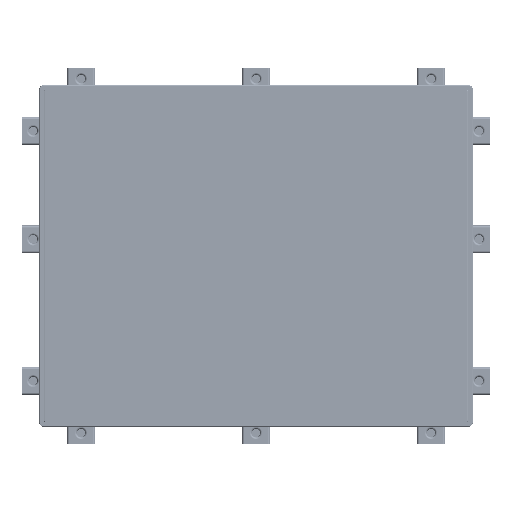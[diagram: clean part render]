
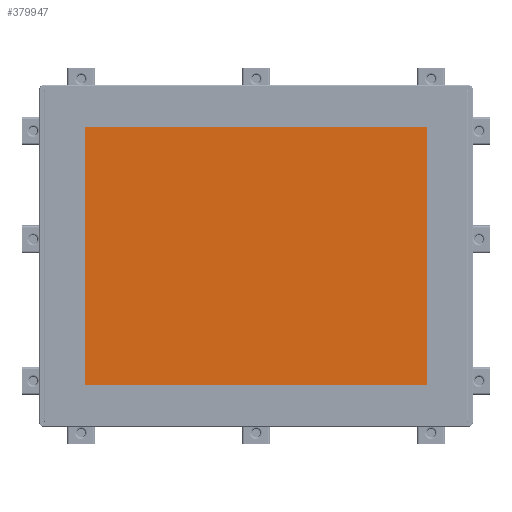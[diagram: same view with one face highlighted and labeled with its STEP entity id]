
A CAD part, top view. The second image highlights one B-rep face of the part: STEP entity #379947.
In plain terms, the highlighted planar face has unit normal (0, 0, 1).
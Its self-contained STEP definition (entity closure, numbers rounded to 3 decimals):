
#13794=DIRECTION('',(0.,-1.,0.));
#13795=VECTOR('',#13794,185.3);
#13796=CARTESIAN_POINT('',(-123.25,92.65,3.21));
#13797=LINE('',#13796,#13795);
#13798=DIRECTION('',(1.,0.,0.));
#13799=VECTOR('',#13798,246.5);
#13800=CARTESIAN_POINT('',(-123.25,92.65,3.21));
#13801=LINE('',#13800,#13799);
#13810=DIRECTION('',(0.,-1.,0.));
#13811=VECTOR('',#13810,185.3);
#13812=CARTESIAN_POINT('',(123.25,92.65,3.21));
#13813=LINE('',#13812,#13811);
#13822=DIRECTION('',(-1.,0.,0.));
#13823=VECTOR('',#13822,246.5);
#13824=CARTESIAN_POINT('',(123.25,-92.65,3.21));
#13825=LINE('',#13824,#13823);
#277768=CARTESIAN_POINT('',(-123.25,-92.65,3.21));
#277769=VERTEX_POINT('',#277768);
#277770=CARTESIAN_POINT('',(-123.25,92.65,3.21));
#277771=VERTEX_POINT('',#277770);
#277772=CARTESIAN_POINT('',(123.25,92.65,3.21));
#277773=VERTEX_POINT('',#277772);
#277774=CARTESIAN_POINT('',(123.25,-92.65,3.21));
#277775=VERTEX_POINT('',#277774);
#379933=CARTESIAN_POINT('',(0.,0.,3.21));
#379934=DIRECTION('',(0.,0.,1.));
#379935=DIRECTION('',(1.,0.,0.));
#379936=AXIS2_PLACEMENT_3D('',#379933,#379934,#379935);
#379937=PLANE('',#379936);
#379938=ORIENTED_EDGE('',*,*,#379916,.F.);
#379940=ORIENTED_EDGE('',*,*,#379939,.T.);
#379942=ORIENTED_EDGE('',*,*,#379941,.T.);
#379944=ORIENTED_EDGE('',*,*,#379943,.T.);
#379945=EDGE_LOOP('',(#379938,#379940,#379942,#379944));
#379946=FACE_OUTER_BOUND('',#379945,.F.);
#379947=ADVANCED_FACE('',(#379946),#379937,.T.);
#379916=EDGE_CURVE('',#277771,#277769,#13797,.T.);
#379939=EDGE_CURVE('',#277771,#277773,#13801,.T.);
#379941=EDGE_CURVE('',#277773,#277775,#13813,.T.);
#379943=EDGE_CURVE('',#277775,#277769,#13825,.T.);
